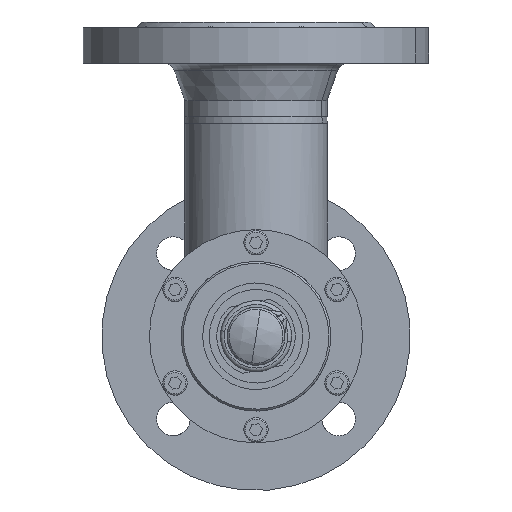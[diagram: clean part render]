
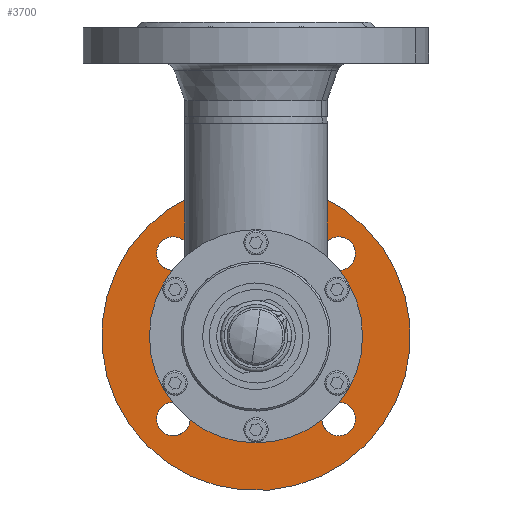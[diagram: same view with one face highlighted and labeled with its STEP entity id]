
A CAD part, front view. The second image highlights one B-rep face of the part: STEP entity #3700.
In plain terms, the highlighted planar face has unit normal (0, -1, 0) as drawn and (0, 1, 0) by its records, which use the part's own axes.
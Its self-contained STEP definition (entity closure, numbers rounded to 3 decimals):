
#246 = FACE_BOUND ( 'NONE', #3208, .T. ) ;
#247 = FACE_BOUND ( 'NONE', #30005, .T. ) ;
#265 = FACE_BOUND ( 'NONE', #26718, .T. ) ;
#266 = FACE_BOUND ( 'NONE', #11824, .T. ) ;
#267 = FACE_BOUND ( 'NONE', #8539, .T. ) ;
#268 = FACE_OUTER_BOUND ( 'NONE', #6010, .T. ) ;
#269 = PLANE ( 'NONE',  #270 ) ;
#270 = AXIS2_PLACEMENT_3D ( 'NONE', #271, #272, #273 ) ;
#271 = CARTESIAN_POINT ( 'NONE',  ( 82.5, 20., 0. ) ) ;
#272 = DIRECTION ( 'NONE',  ( 0., -1., 0. ) ) ;
#273 = DIRECTION ( 'NONE',  ( 1., 0., 0. ) ) ;
#411 = ORIENTED_EDGE ( 'NONE', *, *, #27535, .F. ) ;
#454 = CIRCLE ( 'NONE', #455, 82.5 ) ;
#455 = AXIS2_PLACEMENT_3D ( 'NONE', #456, #457, #458 ) ;
#456 = CARTESIAN_POINT ( 'NONE',  ( 0., 20., 0. ) ) ;
#457 = DIRECTION ( 'NONE',  ( 0., 1., 0. ) ) ;
#458 = DIRECTION ( 'NONE',  ( -1., 0., 0. ) ) ;
#17006 = CARTESIAN_POINT ( 'NONE',  ( 9., 20., -62.5 ) ) ;
#17203 = CARTESIAN_POINT ( 'NONE',  ( 71.5, 20., 0. ) ) ;
#1204 = CARTESIAN_POINT ( 'NONE',  ( -9., 20., 62.5 ) ) ;
#1323 = CARTESIAN_POINT ( 'NONE',  ( -41.687, 20., 0. ) ) ;
#1450 = EDGE_CURVE ( 'NONE', #27089, #29311, #25557, .T. ) ;
#1772 = CIRCLE ( 'NONE', #1773, 9. ) ;
#1773 = AXIS2_PLACEMENT_3D ( 'NONE', #1794, #1795, #1796 ) ;
#1794 = CARTESIAN_POINT ( 'NONE',  ( 0., 20., 62.5 ) ) ;
#1795 = DIRECTION ( 'NONE',  ( 0., 1., 0. ) ) ;
#1796 = DIRECTION ( 'NONE',  ( 0., 0., -1. ) ) ;
#1915 = CIRCLE ( 'NONE', #1935, 41.687 ) ;
#1935 = AXIS2_PLACEMENT_3D ( 'NONE', #1936, #1937, #1938 ) ;
#1936 = CARTESIAN_POINT ( 'NONE',  ( 0., 20., 0. ) ) ;
#1937 = DIRECTION ( 'NONE',  ( 0., 1., 0. ) ) ;
#1938 = DIRECTION ( 'NONE',  ( -1., 0., 0. ) ) ;
#2175 = ORIENTED_EDGE ( 'NONE', *, *, #1450, .F. ) ;
#18563 = EDGE_CURVE ( 'NONE', #5821, #18801, #19502, .T. ) ;
#18801 = VERTEX_POINT ( 'NONE', #19707 ) ;
#2489 = CARTESIAN_POINT ( 'NONE',  ( -71.5, 20., 0. ) ) ;
#18949 = ORIENTED_EDGE ( 'NONE', *, *, #18563, .T. ) ;
#2816 = CIRCLE ( 'NONE', #2817, 9. ) ;
#2817 = AXIS2_PLACEMENT_3D ( 'NONE', #2818, #2819, #2820 ) ;
#2818 = CARTESIAN_POINT ( 'NONE',  ( -62.5, 20., 0. ) ) ;
#2819 = DIRECTION ( 'NONE',  ( 0., 1., 0. ) ) ;
#2820 = DIRECTION ( 'NONE',  ( 1., 0., 0. ) ) ;
#2821 = CARTESIAN_POINT ( 'NONE',  ( 82.5, 20., 0. ) ) ;
#19261 = EDGE_CURVE ( 'NONE', #23533, #14338, #20175, .T. ) ;
#19502 = CIRCLE ( 'NONE', #19508, 82.5 ) ;
#19508 = AXIS2_PLACEMENT_3D ( 'NONE', #19509, #19510, #19511 ) ;
#19509 = CARTESIAN_POINT ( 'NONE',  ( 0., 20., 0. ) ) ;
#19510 = DIRECTION ( 'NONE',  ( 0., 1., 0. ) ) ;
#19511 = DIRECTION ( 'NONE',  ( -1., 0., 0. ) ) ;
#3208 = EDGE_LOOP ( 'NONE', ( #2175, #411 ) ) ;
#19707 = CARTESIAN_POINT ( 'NONE',  ( -82.5, 20., 0. ) ) ;
#3700 = ADVANCED_FACE ( 'NONE', ( #246, #247, #265, #266, #267, #268 ), #269, .F. ) ;
#20175 = CIRCLE ( 'NONE', #20184, 41.687 ) ;
#20184 = AXIS2_PLACEMENT_3D ( 'NONE', #20185, #20186, #20187 ) ;
#20185 = CARTESIAN_POINT ( 'NONE',  ( 0., 20., 0. ) ) ;
#20186 = DIRECTION ( 'NONE',  ( 0., 1., 0. ) ) ;
#20187 = DIRECTION ( 'NONE',  ( -1., 0., 0. ) ) ;
#4051 = EDGE_CURVE ( 'NONE', #18801, #5821, #454, .T. ) ;
#4971 = ORIENTED_EDGE ( 'NONE', *, *, #4051, .T. ) ;
#5378 = VERTEX_POINT ( 'NONE', #2489 ) ;
#5533 = CARTESIAN_POINT ( 'NONE',  ( -53.5, 20., 0. ) ) ;
#5820 = EDGE_CURVE ( 'NONE', #7918, #5378, #2816, .T. ) ;
#5821 = VERTEX_POINT ( 'NONE', #2821 ) ;
#6010 = EDGE_LOOP ( 'NONE', ( #4971, #18949 ) ) ;
#6489 = ORIENTED_EDGE ( 'NONE', *, *, #23782, .F. ) ;
#23469 = VERTEX_POINT ( 'NONE', #1204 ) ;
#23533 = VERTEX_POINT ( 'NONE', #1323 ) ;
#23724 = EDGE_CURVE ( 'NONE', #14084, #23469, #1772, .T. ) ;
#23782 = EDGE_CURVE ( 'NONE', #14338, #23533, #1915, .T. ) ;
#7517 = ORIENTED_EDGE ( 'NONE', *, *, #19261, .F. ) ;
#7918 = VERTEX_POINT ( 'NONE', #5533 ) ;
#8539 = EDGE_LOOP ( 'NONE', ( #7517, #6489 ) ) ;
#8929 = CIRCLE ( 'NONE', #8930, 9. ) ;
#8930 = AXIS2_PLACEMENT_3D ( 'NONE', #8931, #8932, #8933 ) ;
#8931 = CARTESIAN_POINT ( 'NONE',  ( 62.5, 20., 0. ) ) ;
#8932 = DIRECTION ( 'NONE',  ( 0., 1., 0. ) ) ;
#8933 = DIRECTION ( 'NONE',  ( -1., 0., 0. ) ) ;
#25355 = ORIENTED_EDGE ( 'NONE', *, *, #13249, .F. ) ;
#9026 = ORIENTED_EDGE ( 'NONE', *, *, #27645, .F. ) ;
#25557 = CIRCLE ( 'NONE', #25558, 9. ) ;
#25558 = AXIS2_PLACEMENT_3D ( 'NONE', #25559, #25584, #25585 ) ;
#25559 = CARTESIAN_POINT ( 'NONE',  ( 0., 20., -62.5 ) ) ;
#25584 = DIRECTION ( 'NONE',  ( 0., 1., 0. ) ) ;
#25585 = DIRECTION ( 'NONE',  ( 0., 0., 1. ) ) ;
#10053 = EDGE_CURVE ( 'NONE', #27210, #29420, #8929, .T. ) ;
#26718 = EDGE_LOOP ( 'NONE', ( #25355, #12307 ) ) ;
#27089 = VERTEX_POINT ( 'NONE', #10731 ) ;
#10731 = CARTESIAN_POINT ( 'NONE',  ( -9., 20., -62.5 ) ) ;
#10786 = ORIENTED_EDGE ( 'NONE', *, *, #10053, .F. ) ;
#27210 = VERTEX_POINT ( 'NONE', #11222 ) ;
#27211 = ORIENTED_EDGE ( 'NONE', *, *, #5820, .F. ) ;
#27535 = EDGE_CURVE ( 'NONE', #29311, #27089, #11524, .T. ) ;
#11222 = CARTESIAN_POINT ( 'NONE',  ( 53.5, 20., 0. ) ) ;
#27645 = EDGE_CURVE ( 'NONE', #29420, #27210, #11600, .T. ) ;
#11524 = CIRCLE ( 'NONE', #11525, 9. ) ;
#11525 = AXIS2_PLACEMENT_3D ( 'NONE', #11526, #11527, #11528 ) ;
#11526 = CARTESIAN_POINT ( 'NONE',  ( 0., 20., -62.5 ) ) ;
#11527 = DIRECTION ( 'NONE',  ( 0., 1., 0. ) ) ;
#11528 = DIRECTION ( 'NONE',  ( 0., 0., 1. ) ) ;
#11600 = CIRCLE ( 'NONE', #11601, 9. ) ;
#11601 = AXIS2_PLACEMENT_3D ( 'NONE', #11602, #11603, #11604 ) ;
#11602 = CARTESIAN_POINT ( 'NONE',  ( 62.5, 20., 0. ) ) ;
#11603 = DIRECTION ( 'NONE',  ( 0., 1., 0. ) ) ;
#11604 = DIRECTION ( 'NONE',  ( -1., 0., 0. ) ) ;
#11824 = EDGE_LOOP ( 'NONE', ( #10786, #9026 ) ) ;
#28238 = EDGE_CURVE ( 'NONE', #5378, #7918, #12179, .T. ) ;
#12179 = CIRCLE ( 'NONE', #12180, 9. ) ;
#12180 = AXIS2_PLACEMENT_3D ( 'NONE', #12181, #12182, #12183 ) ;
#12181 = CARTESIAN_POINT ( 'NONE',  ( -62.5, 20., 0. ) ) ;
#12182 = DIRECTION ( 'NONE',  ( 0., 1., 0. ) ) ;
#12183 = DIRECTION ( 'NONE',  ( 1., 0., 0. ) ) ;
#12307 = ORIENTED_EDGE ( 'NONE', *, *, #23724, .F. ) ;
#28971 = ORIENTED_EDGE ( 'NONE', *, *, #28238, .F. ) ;
#29311 = VERTEX_POINT ( 'NONE', #17006 ) ;
#29420 = VERTEX_POINT ( 'NONE', #17203 ) ;
#13249 = EDGE_CURVE ( 'NONE', #23469, #14084, #14212, .T. ) ;
#30005 = EDGE_LOOP ( 'NONE', ( #28971, #27211 ) ) ;
#14084 = VERTEX_POINT ( 'NONE', #14562 ) ;
#14212 = CIRCLE ( 'NONE', #14213, 9. ) ;
#14213 = AXIS2_PLACEMENT_3D ( 'NONE', #14214, #14215, #14216 ) ;
#14214 = CARTESIAN_POINT ( 'NONE',  ( 0., 20., 62.5 ) ) ;
#14215 = DIRECTION ( 'NONE',  ( 0., 1., 0. ) ) ;
#14216 = DIRECTION ( 'NONE',  ( 0., 0., -1. ) ) ;
#14338 = VERTEX_POINT ( 'NONE', #14704 ) ;
#14562 = CARTESIAN_POINT ( 'NONE',  ( 9., 20., 62.5 ) ) ;
#14704 = CARTESIAN_POINT ( 'NONE',  ( 41.687, 20., 0. ) ) ;
